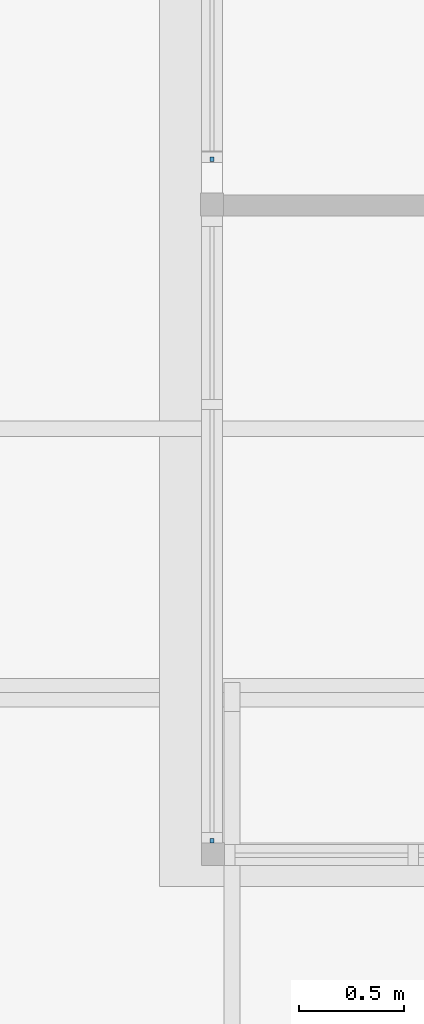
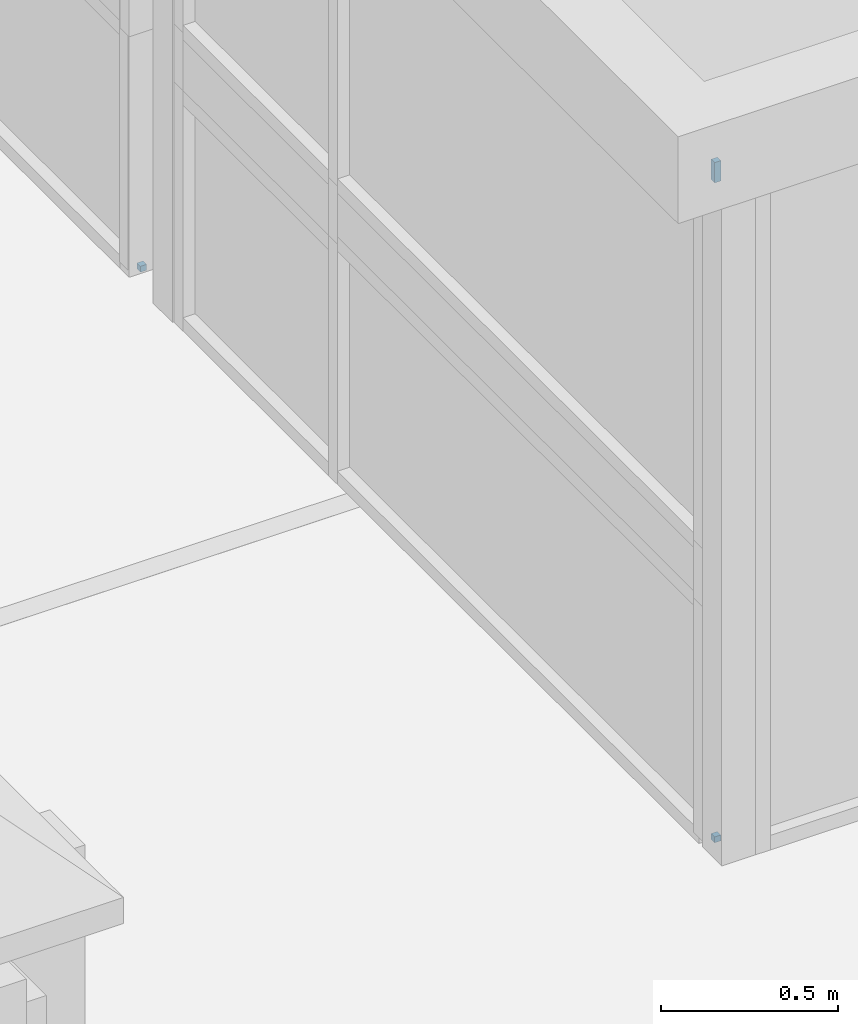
# One storey, part 111 of 153: 3 plates, 2 elements without a shape of their own.
"""IFC4 building model written with IfcOpenShell, lengths in metres."""

from ifc_helpers import new_model, entity, si_unit, converted_unit, derived_unit, direction, frame, origin, place, context, subcontext, project, spatial, indexed_curve, outline, extrude, source, transform, mapped, material, type_object, type_shapes, element, aggregate, save


model = new_model("IFC4")

# Units and contexts
model_context = context("Model", 3, precision=1e-05, world=origin(), true_north=direction((6.123031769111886e-17, 1.0)))
body_context = subcontext(model_context, "Body", "Model", "MODEL_VIEW")
ifc_project = project(units=[si_unit("LENGTHUNIT", "METRE"), si_unit("AREAUNIT", "SQUARE_METRE"), si_unit("VOLUMEUNIT", "CUBIC_METRE"), converted_unit("PLANEANGLEUNIT", "DEGREE", entity("IfcRatioMeasure", 0.017453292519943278), si_unit("PLANEANGLEUNIT", "RADIAN"), dimensions=[0, 0, 0, 0, 0, 0, 0]), si_unit("MASSUNIT", "GRAM", prefix="KILO"), derived_unit("MASSDENSITYUNIT", [(si_unit("MASSUNIT", "GRAM", prefix="KILO"), 1), (si_unit("LENGTHUNIT", "METRE"), -3)]), derived_unit("MOMENTOFINERTIAUNIT", [(si_unit("LENGTHUNIT", "METRE"), 4)]), si_unit("TIMEUNIT", "SECOND"), si_unit("FREQUENCYUNIT", "HERTZ"), si_unit("THERMODYNAMICTEMPERATUREUNIT", "DEGREE_CELSIUS"), derived_unit("THERMALTRANSMITTANCEUNIT", [(si_unit("MASSUNIT", "GRAM", prefix="KILO"), 1), (si_unit("THERMODYNAMICTEMPERATUREUNIT", "KELVIN"), -1), (si_unit("TIMEUNIT", "SECOND"), -3)]), derived_unit("VOLUMETRICFLOWRATEUNIT", [(si_unit("LENGTHUNIT", "METRE"), 3), (si_unit("TIMEUNIT", "SECOND"), -1)]), derived_unit("MASSFLOWRATEUNIT", [(si_unit("MASSUNIT", "GRAM", prefix="KILO"), 1), (si_unit("TIMEUNIT", "SECOND"), -1)]), derived_unit("ROTATIONALFREQUENCYUNIT", [(si_unit("TIMEUNIT", "SECOND"), -1)]), si_unit("ELECTRICCURRENTUNIT", "AMPERE"), si_unit("ELECTRICVOLTAGEUNIT", "VOLT"), si_unit("POWERUNIT", "WATT"), si_unit("FORCEUNIT", "NEWTON", prefix="KILO"), si_unit("ILLUMINANCEUNIT", "LUX"), si_unit("LUMINOUSFLUXUNIT", "LUMEN"), si_unit("LUMINOUSINTENSITYUNIT", "CANDELA"), derived_unit("USERDEFINED", [(si_unit("MASSUNIT", "GRAM", prefix="KILO"), -1), (si_unit("LENGTHUNIT", "METRE"), -2), (si_unit("TIMEUNIT", "SECOND"), 3), (si_unit("LUMINOUSFLUXUNIT", "LUMEN"), 1)]), derived_unit("SOUNDPOWERUNIT", [(si_unit("MASSUNIT", "GRAM", prefix="KILO"), 1), (si_unit("LENGTHUNIT", "METRE"), 2), (si_unit("TIMEUNIT", "SECOND"), -3)]), derived_unit("SOUNDPRESSUREUNIT", [(si_unit("MASSUNIT", "GRAM", prefix="KILO"), 1), (si_unit("LENGTHUNIT", "METRE"), -1), (si_unit("TIMEUNIT", "SECOND"), -2)]), derived_unit("LINEARVELOCITYUNIT", [(si_unit("LENGTHUNIT", "METRE"), 1), (si_unit("TIMEUNIT", "SECOND"), -1)]), si_unit("PRESSUREUNIT", "PASCAL"), derived_unit("USERDEFINED", [(si_unit("LENGTHUNIT", "METRE"), -2), (si_unit("MASSUNIT", "GRAM", prefix="KILO"), 1), (si_unit("TIMEUNIT", "SECOND"), -2)]), derived_unit("LINEARFORCEUNIT", [(si_unit("MASSUNIT", "GRAM", prefix="KILO"), 1), (si_unit("LENGTHUNIT", "METRE"), 1), (si_unit("TIMEUNIT", "SECOND"), -2), (si_unit("LENGTHUNIT", "METRE"), -1)]), derived_unit("PLANARFORCEUNIT", [(si_unit("MASSUNIT", "GRAM", prefix="KILO"), 1), (si_unit("LENGTHUNIT", "METRE"), 1), (si_unit("TIMEUNIT", "SECOND"), -2), (si_unit("LENGTHUNIT", "METRE"), -2)])], contexts=[model_context])

# Site, building, storey
site_placement = place(None, origin())
site = spatial("IfcSite", under=ifc_project, at=site_placement, Name="Superficie", CompositionType="ELEMENT")
building_placement = place(site_placement, origin())
building = spatial("IfcBuilding", under=site, at=building_placement, CompositionType="ELEMENT")
storey_placement = place(building_placement, frame((0.0, 0.0, 3.5999999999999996)))
storey = spatial("IfcBuildingStorey", under=building, at=storey_placement, Name="Nivel 1", CompositionType="ELEMENT", Elevation=3.5999999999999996)

# Curtain wall, plate
curtain_wall_type = type_object("IfcCurtainWallType", Name="Muro cortina:Muro cortina - simple", PredefinedType="NOTDEFINED")
curtain_wall_1_placement = place(storey_placement, frame((0.0, 0.0, -3.5999999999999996)))
curtain_wall_1 = element("IfcCurtainWall", 1, at=curtain_wall_1_placement, inside=storey, type_object=curtain_wall_type, Name="Muro cortina:Muro cortina - simple", ObjectType="Muro cortina:Muro cortina - simple", PredefinedType="NOTDEFINED")
ifc_material = material(Name="Cristal", Category="Vidrio")
plate_type_1 = type_object("IfcPlateType", Name="Panel de sistema:Acristalado", PredefinedType="CURTAIN_PANEL", material=ifc_material)
shared_shape_1 = source(origin(), body_context, "Body", "SweptSolid", [
    extrude(outline(indexed_curve([(-0.01, -0.009999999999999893), (0.01, -0.009999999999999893), (0.01, 0.009999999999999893), (-0.01, 0.009999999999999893), (-0.01, -0.009999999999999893)], self_intersect=False)), frame((0.0, 0.0, 0.0), z_axis=(0.0, 0.0, 1.0), x_axis=(0.0, 1.0, 0.0)), (0.0, 0.0, 1.0), 0.02000000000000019),
])
type_shapes(plate_type_1, [shared_shape_1])
plate_1_placement = place(curtain_wall_1_placement, frame((-13.023200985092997, -0.8947671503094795, 3.5999999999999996), z_axis=(0.0, 0.0, 1.0), x_axis=(0.0, 1.0, 0.0)))
plate_1 = element("IfcPlate", 2, at=plate_1_placement, type_object=plate_type_1, material=ifc_material, Name="Panel de sistema:Acristalado", ObjectType="Panel de sistema:Acristalado", PredefinedType="CURTAIN_PANEL", context=body_context, shape_type="MappedRepresentation", body=[
    mapped(shared_shape_1, transform((0.0, 0.0, 0.0), scale=1.0)),
])

curtain_wall_2_placement = place(storey_placement, frame((0.0, 0.0, -3.5999999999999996)))
curtain_wall_2 = element("IfcCurtainWall", 3, at=curtain_wall_2_placement, inside=storey, type_object=curtain_wall_type, Name="Muro cortina:Muro cortina - simple", ObjectType="Muro cortina:Muro cortina - simple", PredefinedType="NOTDEFINED")
plate_2_placement = place(curtain_wall_2_placement, frame((-13.023200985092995, 2.3563932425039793, 3.5999999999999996), z_axis=(0.0, 0.0, 1.0), x_axis=(0.0, 1.0, 0.0)))
plate_2 = element("IfcPlate", 4, at=plate_2_placement, type_object=plate_type_1, material=ifc_material, Name="Panel de sistema:Acristalado", ObjectType="Panel de sistema:Acristalado", PredefinedType="CURTAIN_PANEL", context=body_context, shape_type="MappedRepresentation", body=[
    mapped(shared_shape_1, transform((0.0, 0.0, 0.0), scale=1.0)),
])
aggregate(curtain_wall_2, [plate_2])

# Plate
plate_type_2 = type_object("IfcPlateType", Name="Panel de sistema:Acristalado", PredefinedType="CURTAIN_PANEL", material=ifc_material)
shared_shape_2 = source(origin(), body_context, "Body", "SweptSolid", [
    extrude(outline(indexed_curve([(-0.01, -0.009999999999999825), (0.01, -0.009999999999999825), (0.01, 0.009999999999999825), (-0.01, 0.009999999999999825), (-0.01, -0.009999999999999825)], self_intersect=False)), frame((0.0, 0.0, 0.0), z_axis=(0.0, 0.0, 1.0), x_axis=(0.0, 1.0, 0.0)), (0.0, 0.0, 1.0), 0.07000000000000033),
])
type_shapes(plate_type_2, [shared_shape_2])
plate_3_placement = place(curtain_wall_1_placement, frame((-13.023200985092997, -0.8947671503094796, 5.879999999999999), z_axis=(0.0, 0.0, 1.0), x_axis=(0.0, 1.0, 0.0)))
plate_3 = element("IfcPlate", 5, at=plate_3_placement, type_object=plate_type_2, material=ifc_material, Name="Panel de sistema:Acristalado", ObjectType="Panel de sistema:Acristalado", PredefinedType="CURTAIN_PANEL", context=body_context, shape_type="MappedRepresentation", body=[
    mapped(shared_shape_2, transform((0.0, 0.0, 0.0), scale=1.0)),
])

aggregate(curtain_wall_1, [plate_1, plate_3])

save(model, "model.ifc")
